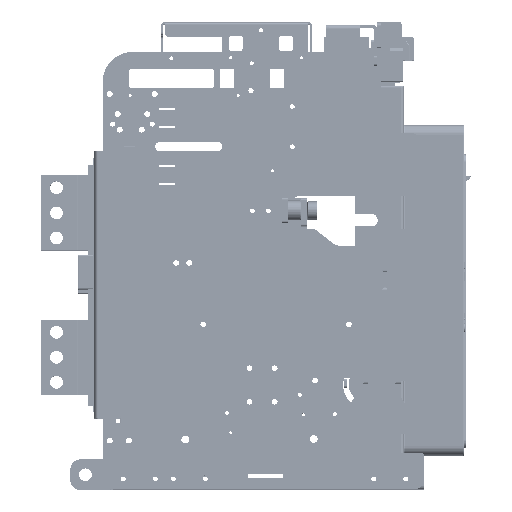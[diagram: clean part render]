
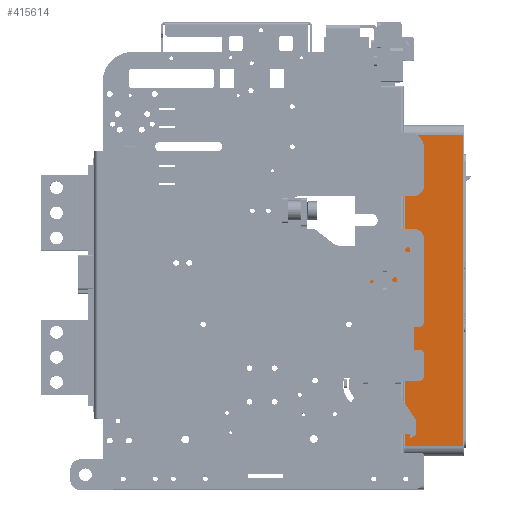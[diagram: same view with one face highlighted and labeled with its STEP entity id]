
A CAD part, top view. The second image highlights one B-rep face of the part: STEP entity #415614.
In plain terms, the highlighted planar face has unit normal (0, 0, 1) as drawn and (-1, 0, 0) by its records, which use the part's own axes.
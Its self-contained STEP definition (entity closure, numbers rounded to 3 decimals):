
#397347=DIRECTION('',(0.,-1.,0.));
#397348=VECTOR('',#397347,310.);
#397349=CARTESIAN_POINT('',(-135.,141.35,108.));
#397350=LINE('',#397349,#397348);
#397351=DIRECTION('',(0.,0.,-1.));
#397352=VECTOR('',#397351,58.);
#397353=CARTESIAN_POINT('',(-135.,-168.65,108.));
#397354=LINE('',#397353,#397352);
#397355=DIRECTION('',(0.,-1.,0.));
#397356=VECTOR('',#397355,156.523);
#397357=CARTESIAN_POINT('',(-135.,-12.127,
50.));
#397358=LINE('',#397357,#397356);
#397359=CARTESIAN_POINT('',(-135.,-6.65,47.));
#397360=CARTESIAN_POINT('',(-134.999,-7.114,
47.43));
#397361=CARTESIAN_POINT('',(-135.,-8.003,
48.247));
#397362=CARTESIAN_POINT('',(-135.,-9.345,
49.224));
#397363=CARTESIAN_POINT('',(-135.,-10.766,
49.861));
#397364=CARTESIAN_POINT('',(-135.,-11.675,
50.));
#397365=CARTESIAN_POINT('',(-135.,-12.127,
50.));
#397367=DIRECTION('',(0.,0.,1.));
#397368=VECTOR('',#397367,34.);
#397369=CARTESIAN_POINT('',(-135.,-6.65,13.));
#397370=LINE('',#397369,#397368);
#397371=DIRECTION('',(0.,0.,1.));
#397372=VECTOR('',#397371,34.);
#397373=CARTESIAN_POINT('',(-135.,-0.25,13.));
#397374=LINE('',#397373,#397372);
#397375=CARTESIAN_POINT('',(-135.,5.227,
50.));
#397376=CARTESIAN_POINT('',(-135.,4.776,
50.));
#397377=CARTESIAN_POINT('',(-135.,3.87,
49.861));
#397378=CARTESIAN_POINT('',(-135.,2.454,
49.229));
#397379=CARTESIAN_POINT('',(-135.001,1.111,
48.254));
#397380=CARTESIAN_POINT('',(-134.999,0.217,
47.433));
#397381=CARTESIAN_POINT('',(-135.,-0.25,47.));
#397383=DIRECTION('',(0.,-1.,0.));
#397384=VECTOR('',#397383,136.123);
#397385=CARTESIAN_POINT('',(-135.,141.35,50.));
#397386=LINE('',#397385,#397384);
#397387=DIRECTION('',(0.,0.,-1.));
#397388=VECTOR('',#397387,58.);
#397389=CARTESIAN_POINT('',(-135.,141.35,108.));
#397390=LINE('',#397389,#397388);
#397651=DIRECTION('',(0.,-1.,0.));
#397652=VECTOR('',#397651,6.4);
#397653=CARTESIAN_POINT('',(-135.,-0.25,13.));
#397654=LINE('',#397653,#397652);
#405744=CARTESIAN_POINT('',(-135.,-0.25,13.));
#405746=VERTEX_POINT('',#405744);
#405749=CARTESIAN_POINT('',(-135.,-6.65,13.));
#405751=VERTEX_POINT('',#405749);
#407069=VERTEX_POINT('',#397375);
#407070=VERTEX_POINT('',#397381);
#407074=CARTESIAN_POINT('',(-135.,141.35,50.));
#407075=VERTEX_POINT('',#407074);
#407110=CARTESIAN_POINT('',(-135.,-168.65,50.));
#407111=VERTEX_POINT('',#407110);
#407114=CARTESIAN_POINT('',(-135.,-12.127,
50.));
#407115=VERTEX_POINT('',#407114);
#407116=VERTEX_POINT('',#397359);
#407122=CARTESIAN_POINT('',(-135.,141.35,108.));
#407124=VERTEX_POINT('',#407122);
#407127=CARTESIAN_POINT('',(-135.,-168.65,108.));
#407128=VERTEX_POINT('',#407127);
#415589=CARTESIAN_POINT('',(-135.,151.35,49.));
#415590=DIRECTION('',(-1.,0.,0.));
#415591=DIRECTION('',(0.,-1.,0.));
#415592=AXIS2_PLACEMENT_3D('',#415589,#415590,#415591);
#415593=PLANE('',#415592);
#415594=ORIENTED_EDGE('',*,*,#415471,.T.);
#415596=ORIENTED_EDGE('',*,*,#415595,.T.);
#415598=ORIENTED_EDGE('',*,*,#415597,.F.);
#415600=ORIENTED_EDGE('',*,*,#415599,.F.);
#415602=ORIENTED_EDGE('',*,*,#415601,.F.);
#415604=ORIENTED_EDGE('',*,*,#415603,.F.);
#415606=ORIENTED_EDGE('',*,*,#415605,.T.);
#415608=ORIENTED_EDGE('',*,*,#415607,.F.);
#415610=ORIENTED_EDGE('',*,*,#415609,.F.);
#415611=ORIENTED_EDGE('',*,*,#415581,.F.);
#415612=EDGE_LOOP('',(#415594,#415596,#415598,#415600,#415602,#415604,#415606,
#415608,#415610,#415611));
#415613=FACE_OUTER_BOUND('',#415612,.F.);
#415614=ADVANCED_FACE('',(#415613),#415593,.T.);
#397366=B_SPLINE_CURVE_WITH_KNOTS('',3,(#397359,#397360,#397361,#397362,#397363,
#397364,#397365),.UNSPECIFIED.,.F.,.F.,(4,1,1,1,4),(0.,0.25,0.5,0.75,
1.),.UNSPECIFIED.);
#397382=B_SPLINE_CURVE_WITH_KNOTS('',3,(#397375,#397376,#397377,#397378,#397379,
#397380,#397381),.UNSPECIFIED.,.F.,.F.,(4,1,1,1,4),(0.,0.25,0.5,0.75,
1.),.UNSPECIFIED.);
#415471=EDGE_CURVE('',#407124,#407128,#397350,.T.);
#415581=EDGE_CURVE('',#407124,#407075,#397390,.T.);
#415595=EDGE_CURVE('',#407128,#407111,#397354,.T.);
#415597=EDGE_CURVE('',#407115,#407111,#397358,.T.);
#415599=EDGE_CURVE('',#407116,#407115,#397366,.T.);
#415601=EDGE_CURVE('',#405751,#407116,#397370,.T.);
#415603=EDGE_CURVE('',#405746,#405751,#397654,.T.);
#415605=EDGE_CURVE('',#405746,#407070,#397374,.T.);
#415607=EDGE_CURVE('',#407069,#407070,#397382,.T.);
#415609=EDGE_CURVE('',#407075,#407069,#397386,.T.);
